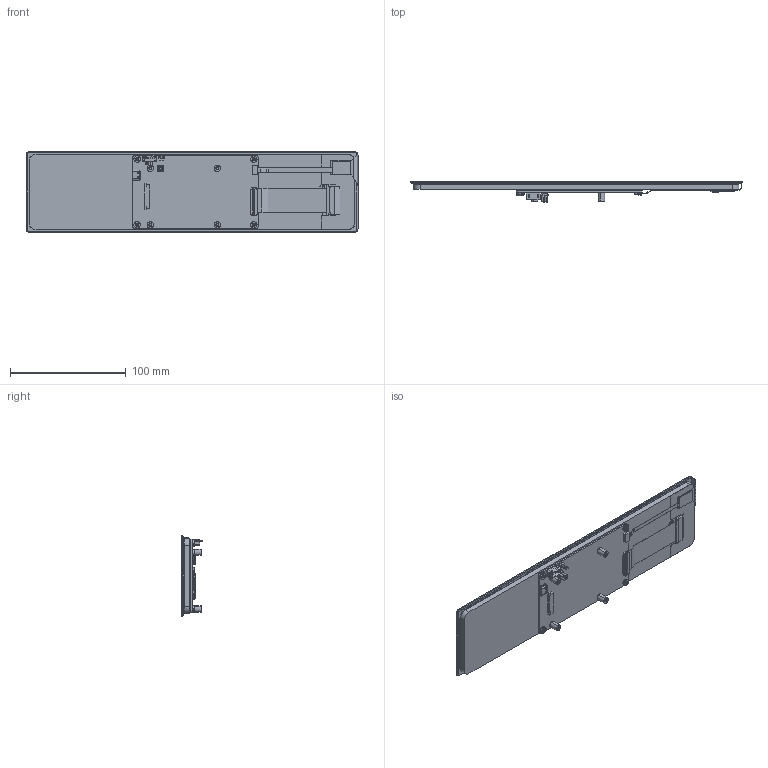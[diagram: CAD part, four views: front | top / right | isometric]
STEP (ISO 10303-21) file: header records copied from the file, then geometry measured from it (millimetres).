
FILE_DESCRIPTION((''),'2;1');
FILE_NAME('79-119INCH-LCD-DSI-ASM-20221111_ASM','2022-11-12T11:29:17',('xiaojisheng'),(''),'CREO PARAMETRIC BY PTC INC, 2021063','CREO PARAMETRIC BY PTC INC, 2021063','');
FILE_SCHEMA(('CONFIG_CONTROL_DESIGN','SHAPE_APPEARANCE_LAYERS_GROUPS'));
Products named in the file (16): 119INCH-TB118-I4018E30A-01; 119INCH-LCD-GALSS; 109INCH-LCD-TOUCH; 109INCH-TP-LCD_3M; 119INCH-1480X320-LCD_TP_ASM; 79_119INCH-DSI_PCB-0428; TR_FASTENINGS_LTD-M2_5X8MM_X; TR_FASTENINGS_LTD-M2_5X1_5MM; 40PIN-0_5SH_LCD_CONNECTOR; DISP_CAM_SMT; TYPE-C_USB-9X3X6_5; HP2_0-4PIN-SMT-L; 2_54_MM_DUPONT_MALE_2PIN-SMT; 79_119INCH-DSI_PCBA-20221111_ASM; EVA; 79-119INCH-LCD-DSI-ASM-20221111_ASM
Assembly tree (21 placements, depth 3):
  79-119INCH-LCD-DSI-ASM-20221111_ASM
    119INCH-1480X320-LCD_TP_ASM
      119INCH-TB118-I4018E30A-01
      119INCH-LCD-GALSS
      109INCH-LCD-TOUCH
      109INCH-TP-LCD_3M
    79_119INCH-DSI_PCBA-20221111_ASM
      79_119INCH-DSI_PCB-0428
      TR_FASTENINGS_LTD-M2_5X8MM_X  x4
      TR_FASTENINGS_LTD-M2_5X1_5MM  x4
      40PIN-0_5SH_LCD_CONNECTOR
      DISP_CAM_SMT
      TYPE-C_USB-9X3X6_5
      HP2_0-4PIN-SMT-L
      2_54_MM_DUPONT_MALE_2PIN-SMT
    EVA
Bounding box: 287.3 x 18.7 x 69.8 mm (x, y, z)
Volume: 156247.2 mm3; surface area: 153241.2 mm2
Topology: 20 solids, 20 shells, 2818 faces, 8178 edges, 5409 vertices
Faces by surface type: plane 2074, cylinder 648, cone 53, bspline 40, extrusion 3
Entity records: 98770 total; most frequent: CARTESIAN_POINT 17750, ORIENTED_EDGE 13140, DIRECTION 11950, EDGE_CURVE 6570, PRESENTATION_STYLE_ASSIGNMENT 6435, STYLED_ITEM 6379, CURVE_STYLE 6308, VECTOR 5248
